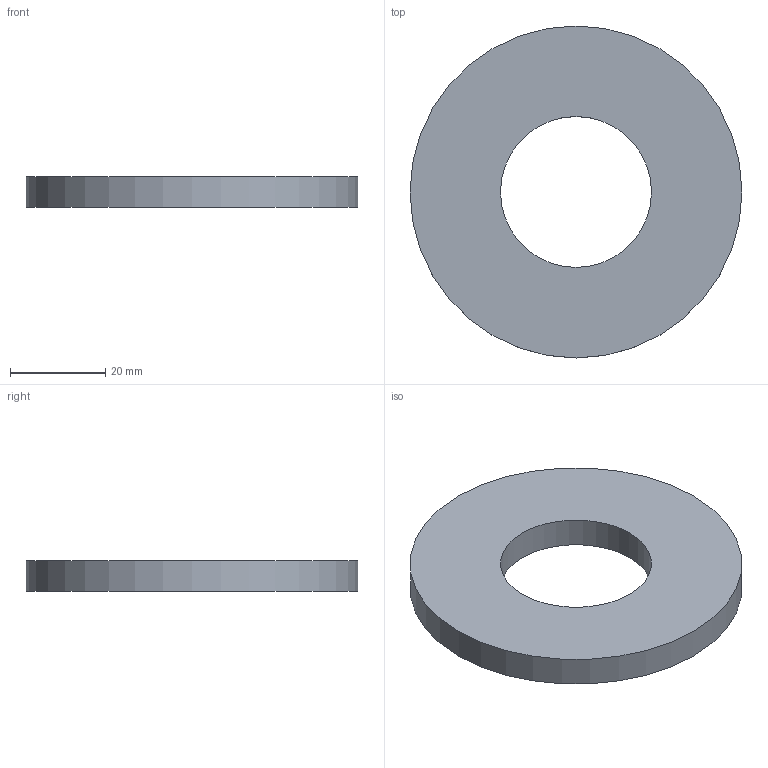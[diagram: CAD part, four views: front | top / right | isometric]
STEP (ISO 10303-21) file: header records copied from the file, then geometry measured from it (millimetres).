
FILE_DESCRIPTION(/* description */ (''),/* implementation_level */ '2;1');
FILE_NAME(/* name */ 'C:\001_Work\Designs\HLW\HLW-1.125.stp',/* time_stamp */ '2015-09-04T08:53:23-04:00',/* author */ ('rramoutar'),/* organization */ ('Mason Industries Inc.'),/* preprocessor_version */ 'ST-DEVELOPER v15.6',/* originating_system */ 'Autodesk Inventor 2015',/* authorisation */ '');
FILE_SCHEMA (('AUTOMOTIVE_DESIGN { 1 0 10303 214 3 1 1 }'));
Length unit declared in the file: inch
Products named in the file (1): HLW-1.125
Bounding box: 69.85 x 69.85 x 6.35 mm (x, y, z)
Volume: 19305.6 mm3; surface area: 8107.3 mm2
Topology: 1 solids, 1 shells, 4 faces, 6 edges, 4 vertices
Faces by surface type: cylinder 2, plane 2
Full cylindrical faces by diameter (mm): 31.75 x1, 69.85 x1
Entity records: 114 total; most frequent: DIRECTION 18, CARTESIAN_POINT 13, AXIS2_PLACEMENT_3D 9, EDGE_LOOP 8, ORIENTED_EDGE 8, FACE_BOUND 4, FACE_OUTER_BOUND 4, CIRCLE 4
